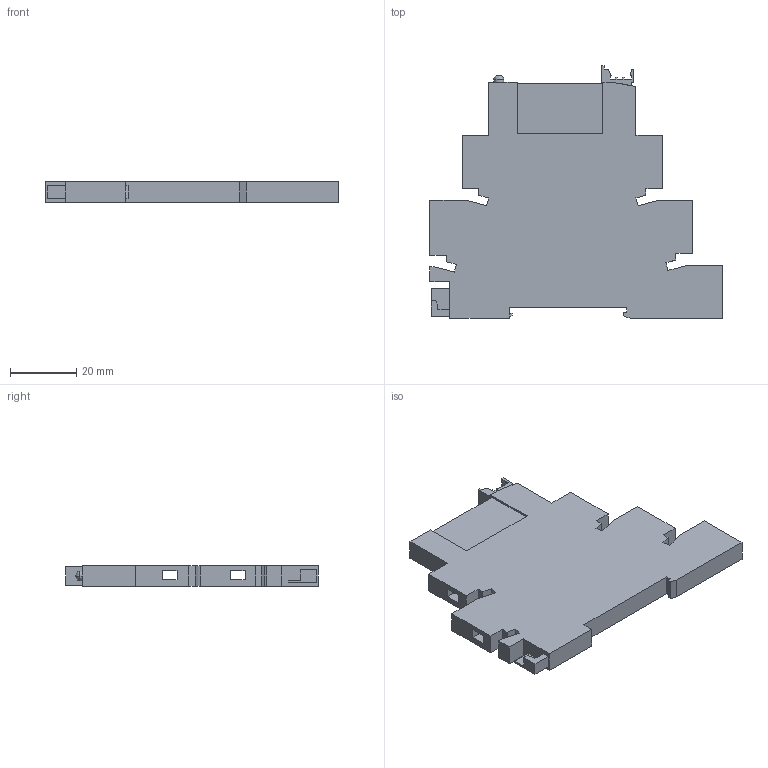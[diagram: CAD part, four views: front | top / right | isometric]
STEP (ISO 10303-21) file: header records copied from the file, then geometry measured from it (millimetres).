
FILE_DESCRIPTION((''),'2;1');
FILE_NAME('700-HLT1U24','2021-08-02T10:35:59',('SEminovi'),('Rockwell Automation'),'CREO PARAMETRIC BY PTC INC, 2020281','CREO PARAMETRIC BY PTC INC, 2020281','');
FILE_SCHEMA(('CONFIG_CONTROL_DESIGN'));
Length unit declared in the file: millimetre
Products named in the file (1): 700-HLT1U24
Bounding box: 88 x 76 x 6.2 mm (x, y, z)
Volume: 25656.7 mm3; surface area: 14961.8 mm2
Topology: 1 solids, 1 shells, 141 faces, 386 edges, 256 vertices
Faces by surface type: plane 127, cylinder 12, bspline 2
Entity records: 4488 total; most frequent: CARTESIAN_POINT 837, ORIENTED_EDGE 772, DIRECTION 692, EDGE_CURVE 386, VECTOR 358, LINE 358, VERTEX_POINT 256, AXIS2_PLACEMENT_3D 167
